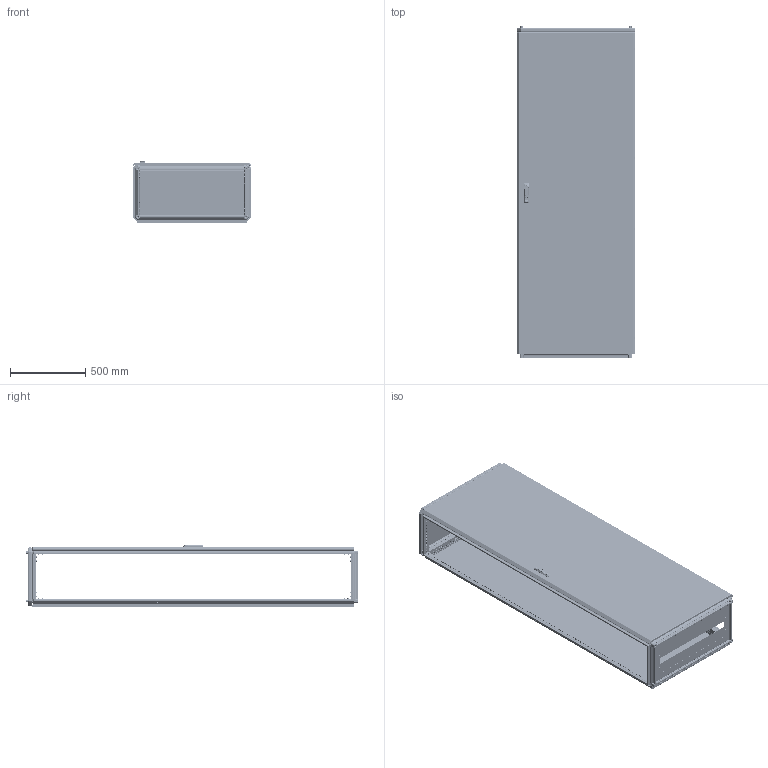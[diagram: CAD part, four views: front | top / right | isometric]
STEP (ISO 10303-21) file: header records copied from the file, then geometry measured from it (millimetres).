
FILE_DESCRIPTION (( 'STEP AP203' ), '1' );
FILE_NAME ('MA1.000.080422.10.00 AleSta2284 Øêàô AleSta 800õ400õ2200.STEP', '2024-08-23T08:49:08', ( '' ), ( '' ), 'SwSTEP 2.0', 'SolidWorks 2021', '' );
FILE_SCHEMA (( 'CONFIG_CONTROL_DESIGN' ));
Length unit declared in the file: millimetre
Products named in the file (50): Øïèëüêà Ì6õ12_˜¯¨«ìª  Œ6å16; Óïëîòíèòåëü ïàíåëè íèæíåé_800å400; äåðæàòåëü_êðóãëîé_òÿãèRG002-RG1010-2-i-RG1010-3-.stp; MA1.101.060620.00.02 Ïðîôèëü ïîïåðå÷íûé ñâàðíîé_02 L=698 (˜=800) ; MA1.200.060620.31.03 Ðåéêà íà äâåðü ãîðèçîíòàëüíàÿ Ø = 600_˜=800; Âèíò ñàìîíàðåçàþùèé ñ ïîòàéíîé ãîëîâêîé Ì5x14 DIN 7500 M TORX, êëàññ ïðî÷íîñòè 8.8, îöèíêîâàííàÿ ñòàëü_Œ5å14; MA1.101.060620.20.01 Ïîëîòíî íèæíåé ïàíåëè 600õ600_800å400; Âèíò ñ âí. øåñòèãðàííèêîì M12 DIN912_•30; MA1.200.060620.10.00 AleSta-PR206  Ïàíåëü çàäíÿÿ, äëÿ øêàôîâ ALESTA, 2000 x 600_2200å800; Ãàéêà ñàìîêîíòðÿùàÿñÿ ñ íåéëîíîâîé âñòàâêîé Ì6 DIN 985, êëàññ ïðî÷íîñòè 8, îöèíêîâàííàÿ ñòàëü_Œ5; Øïèëüêà Ì6õ12_˜¯¨«ìª  Œ6å12; MA1.101.060620.20.00 Íèæíÿÿ ïàíåëü 600õ600_800å400; Âèíò ñàìîíàðåçàþùèé ñ ïîòàéíîé ãîëîâêîé Ì5x14 DIN 7500 M TORX, êëàññ ïðî÷íîñòè 8.8, îöèíêîâàííàÿ ñòàëü_Œ5å12; MA1.101.060620.00.02 Ïðîôèëü ïîïåðå÷íûé ñâàðíîé_00 L=298 (˜=400); MA1.102.060620.00.01 Ïðîôèëü âåðòèêàëüíûé ñâàðíîé_05 L=2098 (‚=2200); MA1.200.060620.31.02 Ðåéêà íà äâåðü âåðòèêàëüíàÿ Â = 2000_‚ = 2200; ﾇﾀﾊﾋﾅﾏﾊﾀ ﾃﾀﾅﾗﾍﾀﾟ ﾘﾅﾑﾒﾈﾃﾐﾀﾍﾍﾀﾟ ﾑ ﾓﾌﾅﾍﾜﾘﾅﾍﾍﾛﾌ ﾁﾎﾐﾒﾎﾌ M4 X 11 (0.5-2.5 ﾌﾌ) HEX U-S ﾖﾈﾍﾊ; 諘蜱齁罻 022 瀁錒瀔隮; MA1.200.060620.11.00 Ïàíåëü çàäíÿÿ, äëÿ øêàôîâ AleSta, 2000x600_2200å800; MA1.101.060620.20.02 Çàêðûòèå íèæíåé ïàíåëè 600õ600_800å400; Ãàéêà ñàìîêîíòðÿùàÿñÿ ñ íåéëîíîâîé âñòàâêîé Ì6 DIN 985, êëàññ ïðî÷íîñòè 8, îöèíêîâàííàÿ ñòàëü_Œ6; MA1.200.060620.11.01 Ïîëîòíî çàäíåé ïàíåëè 2000õ600_2200å800; Ïåòëÿ íà äâåðü ï-îáðàçíàÿ; MA1.200.060620.31.04 ðèãåëü çàìêà äâåðè; MA1.000.080422.10.00 AleSta2284 Øêàô AleSta 800õ400õ2200; Øàéáà ñòîïîðíàÿ ñ íàðóæíûìè çóáöàìè SCHNORR, òèï VS öèíêîâûå õëîïüÿ Ì6 O6,4 ART 88121_Œ6; MA1.200.060620.31.05 Óãëîâîé óïîð äâåðíîé òÿãè; Âèíò_ðåçüáîâûäàâëèâàþùèé_Ì5õ12_DIN 7500E_Œ5å12; MA1.101.060620.10.00 Êðûøà 600x600_800å400; MS463-2-3(1); MA1.101.060620.10.01 Ïîëîòíî êðûøè 600õ600_800x400; Âèíò ðåçüáîâûäàâëèâàþùèé Ì6õ12 DIN 7500E_Œ6å10; òÿãà_lg001-2.STEP_‚=2200; Âèíò_ðåçüáîâûäàâëèâàþùèé_Ì5õ12_DIN 7500E_00; 7380-2 ISO Âèíòû ñ ïîëóêðóãëîé ãîëîâêîé ñ ôëàíöåì ñ âíóòðåííèì øåñòèãðàííèêîì Ì4õ10; Íàâåñêà íà êîðïóñ ïîä êëåïêó; MA1.102.060620.00.00 AleSta-VG2000 Ñòîéêè âåðòèêàëüíûå, Â=2000ìì  (4øò)_ 800å400; MA1.200.060620.31.00 Äâåðü ñïëîøíàÿ äëÿ øêàôîâ ALESTA ÂõØ 2000õ600_2200å800; Áîëò øåñòèãðàííûé Ì5õ12 DIN 933, êëàññ ïðî÷íîñòè 8.8, îöèíêîâàííàÿ ñòàëü; MA1.200.060620.30.00 AleSta-D20M600 Äâåðü ñïëîøíàÿ äëÿ øêàôîâ ALESTA ÂõØ 2000õ600_2200å800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
Assembly tree (337 placements, depth 4):
  MA1.000.080422.10.00 AleSta2284 Øêàô AleSta 800õ400õ2200
    MA1.101.060620.00.00 AleSta-RB66 Êîìïëåêò êðûøà è îñíîâàíèå_ 800å400
      MA1.101.060620.00.02 Ïðîôèëü ïîïåðå÷íûé ñâàðíîé_00 L=298 (˜=400)  x4
      MA1.101.060620.00.02 Ïðîôèëü ïîïåðå÷íûé ñâàðíîé_02 L=698 (˜=800)   x4
      MA1.101.060620.10.00 Êðûøà 600x600_800å400
        MA1.101.060620.10.01 Ïîëîòíî êðûøè 600õ600_800x400
        Øïèëüêà Ì6õ12_˜¯¨«ìª  Œ6å12  x4
        Óïëîòíèòåëü ïàíåëè íèæíåé_800å400
      MA1.101.060620.20.00 Íèæíÿÿ ïàíåëü 600õ600_800å400
        MA1.101.060620.20.01 Ïîëîòíî íèæíåé ïàíåëè 600õ600_800å400
        ﾇﾀﾊﾋﾅﾏﾊﾀ ﾃﾀﾅﾗﾍﾀﾟ ﾘﾅﾑﾒﾈﾃﾐﾀﾍﾍﾀﾟ ﾑ ﾓﾌﾅﾍﾜﾘﾅﾍﾍﾛﾌ ﾁﾎﾐﾒﾎﾌ M4 X 11 (0.5-2.5 ﾌﾌ) HEX U-S ﾖﾈﾍﾊ  x4
        MA1.101.060620.20.02 Çàêðûòèå íèæíåé ïàíåëè 600õ600_800å400  x2
        7380-2 ISO Âèíòû ñ ïîëóêðóãëîé ãîëîâêîé ñ ôëàíöåì ñ âíóòðåííèì øåñòèãðàííèêîì Ì4õ10  x4
      Âèíò_ðåçüáîâûäàâëèâàþùèé_Ì5õ12_DIN 7500E_Œ5å12  x8
      MA1.100.060620.00.01 Ñîåäèíèòåëü óãëîâîé_00  x8
      Âèíò ñ âí. øåñòèãðàííèêîì M12 DIN912_•30  x4
      Âèíò ðåçüáîâûäàâëèâàþùèé Ì6õ12 DIN 7500E_Œ6å10  x96
      ﾘ琺矜 01.019 ﾃﾎﾑﾒ11371-78_12  x4
      ﾘ琺矜 65ﾃ 019 ﾃﾎﾑﾒ 6402-70_12  x4
      Øàéáà ñòîïîðíàÿ ñ íàðóæíûìè çóáöàìè SCHNORR, òèï VS öèíêîâûå õëîïüÿ Ì6 O6,4 ART 88121_Œ6  x80
    MA1.102.060620.00.00 AleSta-VG2000 Ñòîéêè âåðòèêàëüíûå, Â=2000ìì  (4øò)_ 800å400
      MA1.102.060620.00.01 Ïðîôèëü âåðòèêàëüíûé ñâàðíîé_05 L=2098 (‚=2200)  x4
    MA1.200.060620.10.00 AleSta-PR206  Ïàíåëü çàäíÿÿ, äëÿ øêàôîâ ALESTA, 2000 x 600_2200å800
      MA1.200.060620.11.00 Ïàíåëü çàäíÿÿ, äëÿ øêàôîâ AleSta, 2000x600_2200å800
        MA1.200.060620.11.01 Ïîëîòíî çàäíåé ïàíåëè 2000õ600_2200å800
        Óïëîòíèòåëü ïàíåëè íèæíåé_ ‚=2200
        Øïèëüêà Ì6õ12_˜¯¨«ìª  Œ6å12  x4
      Âèíò ñàìîíàðåçàþùèé ñ ïîòàéíîé ãîëîâêîé Ì5x14 DIN 7500 M TORX, êëàññ ïðî÷íîñòè 8.8, îöèíêîâàííàÿ ñòàëü_Œ5å14  x8
    MA1.200.060620.30.00 AleSta-D20M600 Äâåðü ñïëîøíàÿ äëÿ øêàôîâ ALESTA ÂõØ 2000õ600_2200å800
      MA1.200.060620.31.00 Äâåðü ñïëîøíàÿ äëÿ øêàôîâ ALESTA ÂõØ 2000õ600_2200å800
        MA1.200.060620.31.01 Ïîëîòíî äâåðè ñïëîøíîé 2000õ600_2200å800
        Óïëîòíèòåëü ïàíåëè íèæíåé_ ‚=2200
        Øïèëüêà Ì6õ12_˜¯¨«ìª  Œ6å20  x16
        Øïèëüêà Ì6õ12_˜¯¨«ìª  Œ6å16  x4
        Ïåòëÿ íà äâåðü ï-îáðàçíàÿ  x4
      MA1.200.060620.31.03 Ðåéêà íà äâåðü ãîðèçîíòàëüíàÿ Ø = 600_˜=800  x2
      諘蜱齁罻 022 瀁錒瀔隮  x4
      MA1.200.060620.31.02 Ðåéêà íà äâåðü âåðòèêàëüíàÿ Â = 2000_‚ = 2200  x2
      äåðæàòåëü_êðóãëîé_òÿãèRG002-RG1010-2-i-RG1010-3-.stp  x2
      òÿãà_lg001-2.STEP_‚=2200  x2
      êðåïëåíèå_êðóãëîé_òÿãè_RG1020-1.stp  x2
      MS463-2-3(1)
      Ãàéêà ñàìîêîíòðÿùàÿñÿ ñ íåéëîíîâîé âñòàâêîé Ì6 DIN 985, êëàññ ïðî÷íîñòè 8, îöèíêîâàííàÿ ñòàëü_Œ6  x16
      Ãàéêà ñàìîêîíòðÿùàÿñÿ ñ íåéëîíîâîé âñòàâêîé Ì6 DIN 985, êëàññ ïðî÷íîñòè 8, îöèíêîâàííàÿ ñòàëü_Œ5  x2
      Áîëò øåñòèãðàííûé Ì5õ12 DIN 933, êëàññ ïðî÷íîñòè 8.8, îöèíêîâàííàÿ ñòàëü  x2
      MA1.200.060620.31.04 ðèãåëü çàìêà äâåðè
      MA1.200.060620.31.05 Óãëîâîé óïîð äâåðíîé òÿãè  x2
      Âèíò_ðåçüáîâûäàâëèâàþùèé_Ì5õ12_DIN 7500E_00  x2
      Íàâåñêà íà êîðïóñ ïîä êëåïêó  x4
      Îñü ïåòëè 4õ52_‚¨­â A.M4x0,5x40 ƒŽ‘’ 11644-75  x4
      Âèíò ñàìîíàðåçàþùèé ñ ïîòàéíîé ãîëîâêîé Ì5x14 DIN 7500 M TORX, êëàññ ïðî÷íîñòè 8.8, îöèíêîâàííàÿ ñòàëü_Œ5å12  x8
  Ïðîáêà ïëàñòèêîâàÿ óíèâåðñàëüíàÿ ïîä îòâåðñòèå 4,5 ìì, ñåðèÿ ST, öâåò áåñöâåòíûé – ST4,5
Bounding box: 792 x 2210.9 x 416.8 mm (x, y, z)
Volume: 10777860.2 mm3; surface area: 14052937.5 mm2
Topology: 364 solids, 378 shells, 24267 faces, 62838 edges, 39400 vertices
Faces by surface type: plane 14505, cylinder 7069, bspline 921, cone 845, torus 829, sphere 98
Entity records: 254440 total; most frequent: CARTESIAN_POINT 80809, ORIENTED_EDGE 33266, DIRECTION 32736, EDGE_CURVE 16650, AXIS2_PLACEMENT_3D 11216, VERTEX_POINT 10397, LINE 10304, VECTOR 10304
